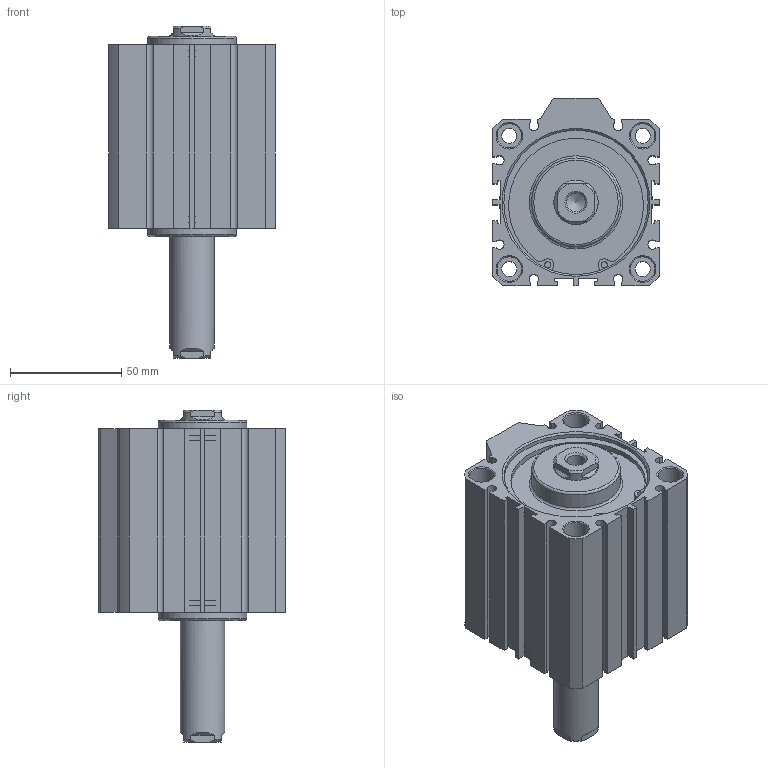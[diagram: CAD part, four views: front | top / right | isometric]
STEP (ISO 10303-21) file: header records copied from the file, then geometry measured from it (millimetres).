
FILE_DESCRIPTION((''),'2;1');
FILE_NAME('I:\3D電子目錄\氣缸\JDD\JDD\JDD63\JDD63x50.stp','2007-02-08T11:33:01',('662F206'),(''),'Autodesk Inventor 10','Autodesk Inventor 10','');
FILE_SCHEMA(('AUTOMOTIVE_DESIGN { 1 0 10303 214 1 1 1 1 }'));
Length unit declared in the file: millimetre
Products named in the file (3): JDD63; R 形環 65
Assembly tree (3 placements, depth 2):
  JDD63
    JDD63
    R 形環 65  x2
Bounding box: 75 x 84.5 x 149.5 mm (x, y, z)
Volume: 445317.9 mm3; surface area: 70330.1 mm2
Topology: 3 solids, 3 shells, 204 faces, 514 edges, 338 vertices
Faces by surface type: plane 116, cylinder 56, cone 24, bspline 6, torus 2
Full cylindrical faces by diameter (mm): 2.7 x4, 3 x2, 6.8 x4, 11 x8, 20 x2, 40 x2, 65 x4, 68 x2
Entity records: 5651 total; most frequent: CARTESIAN_POINT 1118, DIRECTION 936, ORIENTED_EDGE 848, EDGE_CURVE 424, AXIS2_PLACEMENT_3D 336, VERTEX_POINT 308, EDGE_LOOP 276, VECTOR 264
